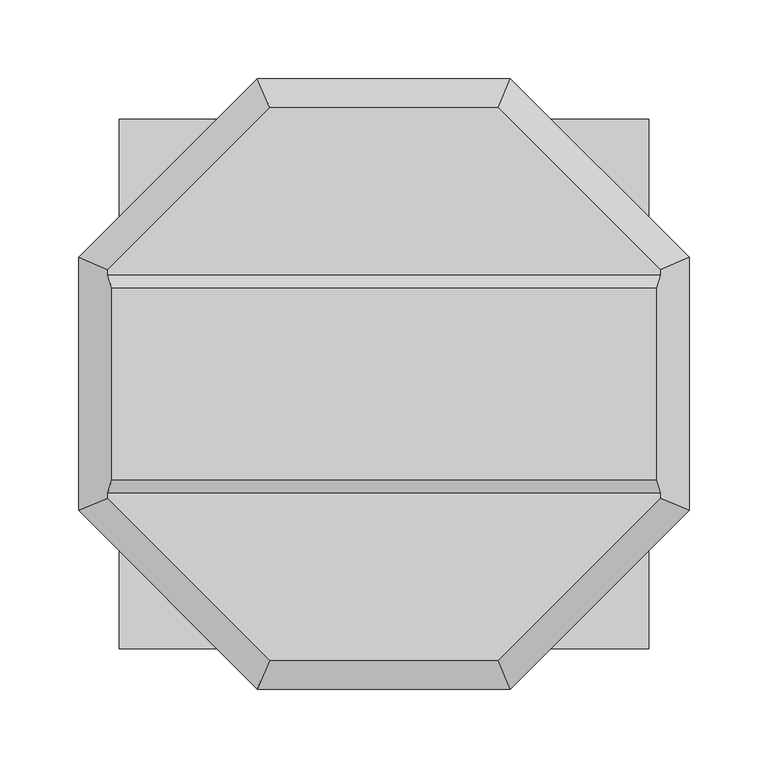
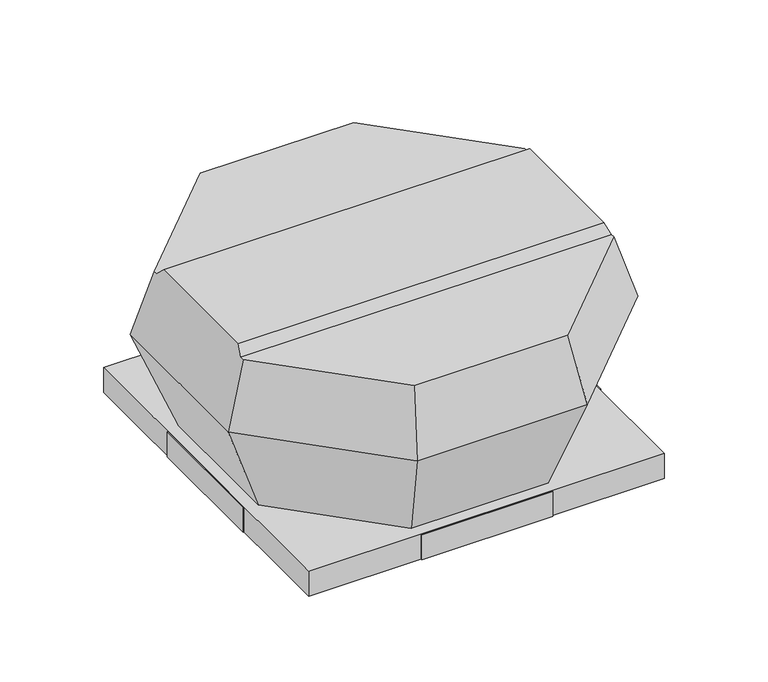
"""IFC4 building model written with IfcOpenShell, lengths in millimetres: unitary equipment geometry, VE-Wentylator-ParaForma-Harmann-VIVO-Wywiewny : 2-190/500S."""

from ifc_helpers import new_model, si_unit, origin, place, context, project, spatial, faceted_brep, source, transform, mapped, element, save


def unitary_equipment_4cf51de1(model_context):
    return source(origin(), model_context, "Body", "Brep", [
        faceted_brep([(173.3023939, -61.05, 166.2), (173.3023939, 61.05, 166.2), (-173.3023939, 61.05, 166.2), (-173.3023939, -61.05, 166.2), (175.7547473, 69.15, 158.1), (-175.7547473, 69.15, 158.1), (175.7547473, -69.15, 158.1), (-175.7547473, -69.15, 158.1), (72.8, -175.7547473, 158.1), (175.7547473, -72.8, 158.1), (-175.7547473, -72.8, 158.1), (-72.8, -175.7547473, 158.1), (175.7547473, 72.8, 158.1), (72.8, 175.7547473, 158.1), (-72.8, 175.7547473, 158.1), (-175.7547473, 72.8, 158.1), (80.5, -194.3441918, 96.7), (194.3441918, -80.5, 96.7), (194.3441918, 80.5, 96.7), (80.5, 194.3441918, 96.7), (-80.5, 194.3441918, 96.7), (-194.3441918, 80.5, 96.7), (-194.3441918, -80.5, 96.7), (-80.5, -194.3441918, 96.7), (65.05, -157.0445922, 1.0), (-65.05, -157.0445922, 1.0), (-157.0445922, -65.05, 1.0), (-157.0445922, 65.05, 1.0), (-65.05, 157.0445922, 1.0), (65.05, 157.0445922, 1.0), (157.0445922, 65.05, 1.0), (157.0445922, -65.05, 1.0)], [[[0, 1, 2, 3]], [[1, 4, 5, 2]], [[6, 0, 3, 7]], [[8, 9, 6, 7, 10, 11]], [[12, 13, 14, 15, 5, 4]], [[9, 8, 16, 17]], [[9, 17, 18, 12, 4, 1, 0, 6]], [[13, 12, 18, 19]], [[14, 13, 19, 20]], [[15, 14, 20, 21]], [[15, 21, 22, 10, 7, 3, 2, 5]], [[11, 10, 22, 23]], [[8, 11, 23, 16]], [[24, 25, 26, 27, 28, 29, 30, 31]], [[24, 31, 17, 16]], [[31, 30, 18, 17]], [[30, 29, 19, 18]], [[29, 28, 20, 19]], [[28, 27, 21, 20]], [[27, 26, 22, 21]], [[26, 25, 23, 22]], [[25, 24, 16, 23]]]),
        faceted_brep([(167.5, 167.5, -24.0), (167.5, 167.5, 0.0), (-167.5, 167.5, 0.0), (-167.5, 167.5, -24.0), (168.5, 168.5, 1.0), (168.5, 168.5, -24.0), (-168.5, 168.5, -24.0), (-168.5, 168.5, 1.0), (-167.5, -167.5, 0.0), (-167.5, -167.5, -24.0), (-168.5, -168.5, -24.0), (-168.5, -168.5, 1.0), (167.5, -167.5, 0.0), (167.5, -167.5, -24.0), (168.5, -168.5, -24.0), (168.5, -168.5, 1.0)], [[[0, 1, 2, 3]], [[4, 5, 6, 7]], [[3, 2, 8, 9]], [[7, 6, 10, 11]], [[9, 8, 12, 13]], [[11, 10, 14, 15]], [[13, 12, 1, 0]], [[5, 14, 10, 6], [3, 9, 13, 0]], [[15, 14, 5, 4]], [[7, 11, 15, 4]], [[1, 12, 8, 2]]]),
        faceted_brep([(-168.5, -62.2, -24.0), (-169.5, -62.2, -24.0), (-169.5, 62.2, -24.0), (-168.5, 62.2, -24.0), (-168.5, -62.2, 1.0), (-168.5, 62.2, 1.0), (-169.5, 62.2, 1.0), (-169.5, -62.2, 1.0)], [[[0, 1, 2, 3]], [[4, 5, 6, 7]], [[1, 0, 4, 7]], [[2, 1, 7, 6]], [[3, 2, 6, 5]], [[0, 3, 5, 4]]]),
        faceted_brep([(169.5, -62.2, -24.0), (168.5, -62.2, -24.0), (168.5, 62.2, -24.0), (169.5, 62.2, -24.0), (169.5, 62.2, 1.0), (168.5, 62.2, 1.0), (168.5, 5.0, 1.0), (168.5, -5.0, 1.0), (168.5, -62.2, 1.0), (169.5, -62.2, 1.0), (169.5, -5.0, 1.0), (169.5, 5.0, 1.0)], [[[0, 1, 2, 3]], [[4, 5, 6, 7, 8, 9, 10, 11]], [[1, 0, 9, 8]], [[2, 1, 8, 7, 6, 5]], [[3, 2, 5, 4]], [[0, 3, 4, 11, 10, 9]]]),
        faceted_brep([(62.2, 168.5, -24.0), (-62.2, 168.5, -24.0), (-62.2, 169.5, -24.0), (62.2, 169.5, -24.0), (62.2, 168.5, 1.0), (62.2, 169.5, 1.0), (-62.2, 169.5, 1.0), (-62.2, 168.5, 1.0)], [[[0, 1, 2, 3]], [[4, 5, 6, 7]], [[1, 0, 4, 7]], [[2, 1, 7, 6]], [[3, 2, 6, 5]], [[0, 3, 5, 4]]]),
        faceted_brep([(62.2, -169.5, -24.0), (-62.2, -169.5, -24.0), (-62.2, -168.5, -24.0), (62.2, -168.5, -24.0), (62.2, -169.5, 1.0), (62.2, -168.5, 1.0), (-62.2, -168.5, 1.0), (-62.2, -169.5, 1.0)], [[[0, 1, 2, 3]], [[4, 5, 6, 7]], [[1, 0, 4, 7]], [[2, 1, 7, 6]], [[3, 2, 6, 5]], [[0, 3, 5, 4]]]),
    ])


if __name__ == "__main__":
    model = new_model("IFC4")
    model_context = context("Model", 3, world=origin())
    ifc_project = project(units=[si_unit("LENGTHUNIT", "METRE", prefix="MILLI")], contexts=[model_context])
    site = spatial("IfcSite", under=ifc_project)
    building = spatial("IfcBuilding", under=site)
    placement = place(None, origin())
    unitary_equipment_shape = unitary_equipment_4cf51de1(model_context)
    element("IfcUnitaryEquipment", 1, ObjectType="VE-Wentylator-ParaForma-Harmann-VIVO-Wywiewny : 2-190/500S", at=placement, inside=building, context=model_context, shape_type="MappedRepresentation", body=[
        mapped(unitary_equipment_shape, transform((0.0, 0.0, 0.0), x_axis=(1.0, 0.0, 0.0), y_axis=(0.0, 1.0, 0.0), z_axis=(0.0, 0.0, 1.0))),
    ])
    save(model, "model.ifc")
